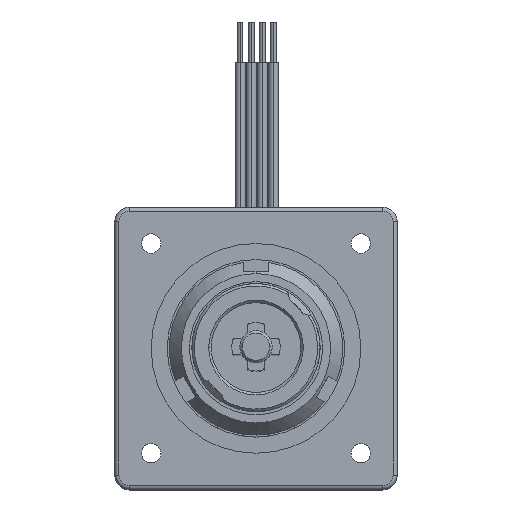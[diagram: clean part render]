
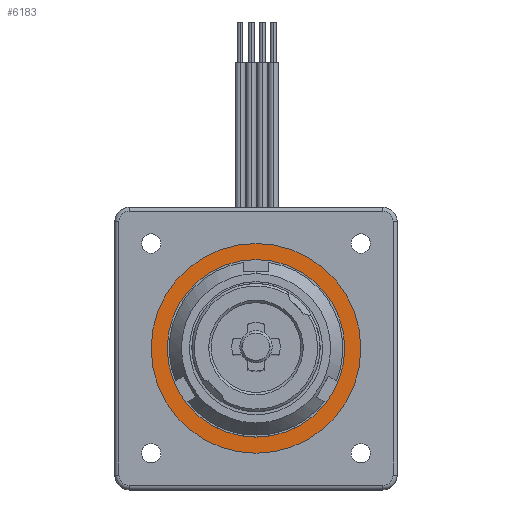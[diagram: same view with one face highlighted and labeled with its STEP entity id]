
A CAD part, top view. The second image highlights one B-rep face of the part: STEP entity #6183.
In plain terms, the highlighted planar face has unit normal (0, 0, 1).
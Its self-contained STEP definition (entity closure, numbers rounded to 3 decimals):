
#1195 = CARTESIAN_POINT ( 'NONE',  ( 4.291, -1.194, 16.03 ) ) ;
#1753 = AXIS2_PLACEMENT_3D ( 'NONE', #4979, #4981, #4982 ) ;
#2199 = VERTEX_POINT ( 'NONE', #1195 ) ;
#2753 = AXIS2_PLACEMENT_3D ( 'NONE', #7011, #7012, #7013 ) ;
#3789 = CIRCLE ( 'NONE', #9175, 13. ) ;
#3804 = CIRCLE ( 'NONE', #1753, 11. ) ;
#3895 = CIRCLE ( 'NONE', #3949, 13. ) ;
#3949 = AXIS2_PLACEMENT_3D ( 'NONE', #5185, #6726, #6727 ) ;
#4547 = PLANE ( 'NONE',  #9097 ) ;
#4548 = CARTESIAN_POINT ( 'NONE',  ( -8.709, -1.194, 16.03 ) ) ;
#4549 = DIRECTION ( 'NONE',  ( 0., 0., 1. ) ) ;
#4550 = DIRECTION ( 'NONE',  ( 1., 0., 0. ) ) ;
#4575 = CARTESIAN_POINT ( 'NONE',  ( -8.709, -1.194, 16.03 ) ) ;
#4576 = DIRECTION ( 'NONE',  ( 0., 0., 1. ) ) ;
#4577 = DIRECTION ( 'NONE',  ( 1., 0., 0. ) ) ;
#4979 = CARTESIAN_POINT ( 'NONE',  ( -8.709, -1.194, 16.03 ) ) ;
#4981 = DIRECTION ( 'NONE',  ( 0., 0., 1. ) ) ;
#4982 = DIRECTION ( 'NONE',  ( 1., 0., 0. ) ) ;
#5185 = CARTESIAN_POINT ( 'NONE',  ( -8.709, -1.194, 16.03 ) ) ;
#6183 = ADVANCED_FACE ( 'NONE', ( #9247, #9106 ), #4547, .T. ) ;
#6192 = EDGE_CURVE ( 'NONE', #8754, #2199, #3789, .T. ) ;
#6318 = EDGE_CURVE ( 'NONE', #8949, #8704, #3804, .T. ) ;
#6373 = EDGE_CURVE ( 'NONE', #2199, #8754, #3895, .T. ) ;
#6467 = EDGE_CURVE ( 'NONE', #8704, #8949, #13034, .T. ) ;
#6726 = DIRECTION ( 'NONE',  ( 0., 0., 1. ) ) ;
#6727 = DIRECTION ( 'NONE',  ( 1., 0., 0. ) ) ;
#7011 = CARTESIAN_POINT ( 'NONE',  ( -8.709, -1.194, 16.03 ) ) ;
#7012 = DIRECTION ( 'NONE',  ( 0., 0., 1. ) ) ;
#7013 = DIRECTION ( 'NONE',  ( 1., 0., 0. ) ) ;
#7093 = CARTESIAN_POINT ( 'NONE',  ( -19.709, -1.194, 16.03 ) ) ;
#7143 = CARTESIAN_POINT ( 'NONE',  ( -21.709, -1.194, 16.03 ) ) ;
#7338 = CARTESIAN_POINT ( 'NONE',  ( 2.291, -1.194, 16.03 ) ) ;
#8614 = EDGE_LOOP ( 'NONE', ( #14939, #14970 ) ) ;
#8622 = EDGE_LOOP ( 'NONE', ( #14975, #14922 ) ) ;
#8704 = VERTEX_POINT ( 'NONE', #7093 ) ;
#8754 = VERTEX_POINT ( 'NONE', #7143 ) ;
#8949 = VERTEX_POINT ( 'NONE', #7338 ) ;
#9097 = AXIS2_PLACEMENT_3D ( 'NONE', #4548, #4549, #4550 ) ;
#9106 = FACE_OUTER_BOUND ( 'NONE', #8622, .T. ) ;
#9175 = AXIS2_PLACEMENT_3D ( 'NONE', #4575, #4576, #4577 ) ;
#9247 = FACE_BOUND ( 'NONE', #8614, .T. ) ;
#13034 = CIRCLE ( 'NONE', #2753, 11. ) ;
#14922 = ORIENTED_EDGE ( 'NONE', *, *, #6192, .T. ) ;
#14939 = ORIENTED_EDGE ( 'NONE', *, *, #6467, .F. ) ;
#14970 = ORIENTED_EDGE ( 'NONE', *, *, #6318, .F. ) ;
#14975 = ORIENTED_EDGE ( 'NONE', *, *, #6373, .T. ) ;
